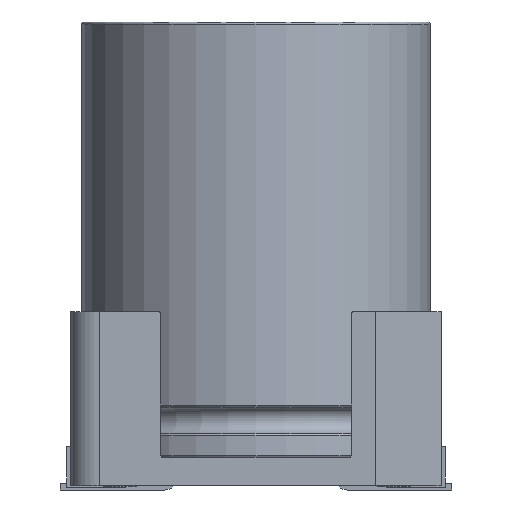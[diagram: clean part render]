
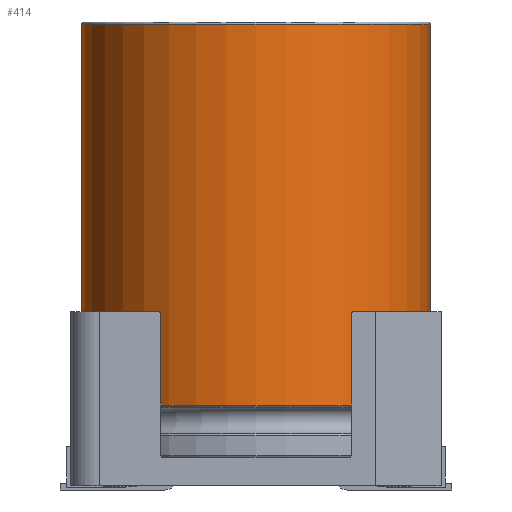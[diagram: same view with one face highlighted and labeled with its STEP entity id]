
A CAD part, front view. The second image highlights one B-rep face of the part: STEP entity #414.
In plain terms, the highlighted cylindrical face has radius 8 mm (diameter 16 mm), a full revolution.
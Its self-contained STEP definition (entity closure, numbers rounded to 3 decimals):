
#144=CYLINDRICAL_SURFACE('',#3352,8.);
#414=ADVANCED_FACE('',(#1339,#1340),#144,.T.);
#1339=FACE_BOUND('',#1421,.T.);
#1340=FACE_BOUND('',#1422,.T.);
#1421=EDGE_LOOP('',(#1851));
#1422=EDGE_LOOP('',(#1852));
#1851=ORIENTED_EDGE('',*,*,#2887,.T.);
#1852=ORIENTED_EDGE('',*,*,#2888,.T.);
#2551=VERTEX_POINT('',#4896);
#2552=VERTEX_POINT('',#4898);
#2887=EDGE_CURVE('',#2551,#2551,#3197,.T.);
#2888=EDGE_CURVE('',#2552,#2552,#3198,.T.);
#3197=CIRCLE('',#3350,8.);
#3198=CIRCLE('',#3351,8.);
#3350=AXIS2_PLACEMENT_3D('',#4895,#3840,#3841);
#3351=AXIS2_PLACEMENT_3D('',#4897,#3842,#3843);
#3352=AXIS2_PLACEMENT_3D('',#4899,#3844,#3845);
#3840=DIRECTION('',(0.,0.,1.));
#3841=DIRECTION('',(1.,0.,0.));
#3842=DIRECTION('',(0.,0.,-1.));
#3843=DIRECTION('',(-1.,0.,0.));
#3844=DIRECTION('',(0.,0.,-1.));
#3845=DIRECTION('',(-1.,0.,0.));
#4895=CARTESIAN_POINT('',(0.,0.,3.7));
#4896=CARTESIAN_POINT('',(8.,0.,3.7));
#4897=CARTESIAN_POINT('',(0.,0.,21.2));
#4898=CARTESIAN_POINT('',(-8.,0.,21.2));
#4899=CARTESIAN_POINT('',(0.,0.,0.));
